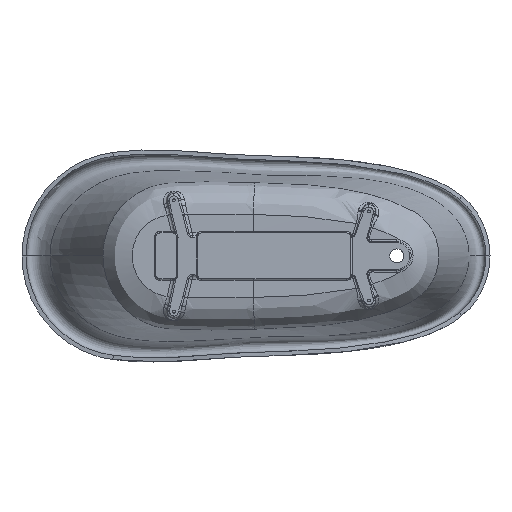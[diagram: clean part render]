
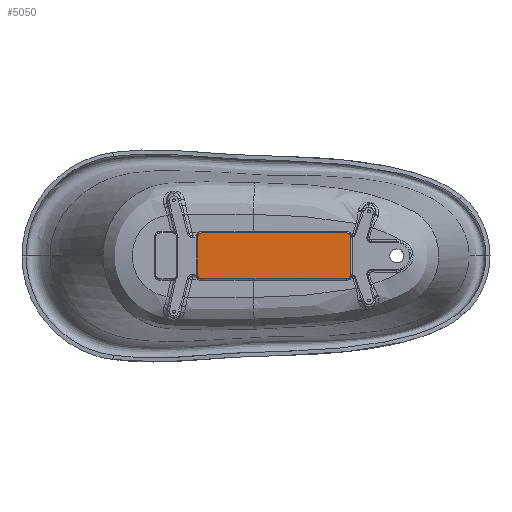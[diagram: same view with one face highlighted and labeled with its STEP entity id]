
A CAD part, front view. The second image highlights one B-rep face of the part: STEP entity #5050.
In plain terms, the highlighted planar face has unit normal (0, -1, 0).
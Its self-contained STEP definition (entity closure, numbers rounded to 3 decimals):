
#166=PLANE('',#5350);
#781=FACE_OUTER_BOUND('',#982,.T.);
#982=EDGE_LOOP('',(#3564,#3565,#3566,#3567,#3568,#3569,#3570,#3571,#3572,
#3573,#3574,#3575));
#1118=LINE('',#6656,#1187);
#1130=LINE('',#8176,#1199);
#1140=LINE('',#8889,#1209);
#1152=LINE('',#10668,#1221);
#1154=LINE('',#11195,#1223);
#1156=LINE('',#11431,#1225);
#1187=VECTOR('',#5527,520.);
#1199=VECTOR('',#5661,1.441);
#1209=VECTOR('',#5749,1.441);
#1221=VECTOR('',#5839,135.);
#1223=VECTOR('',#5875,132.118);
#1225=VECTOR('',#5887,520.);
#1309=CIRCLE('',#5251,15.);
#1345=CIRCLE('',#5298,15.);
#1346=CIRCLE('',#5300,15.);
#1367=CIRCLE('',#5333,15.);
#1368=CIRCLE('',#5335,15.);
#1378=CIRCLE('',#5351,15.);
#1506=VERTEX_POINT('',#6634);
#1513=VERTEX_POINT('',#6654);
#1514=VERTEX_POINT('',#6655);
#1530=VERTEX_POINT('',#6980);
#1591=VERTEX_POINT('',#8175);
#1592=VERTEX_POINT('',#8181);
#1633=VERTEX_POINT('',#8885);
#1635=VERTEX_POINT('',#8888);
#1644=VERTEX_POINT('',#9060);
#1675=VERTEX_POINT('',#10667);
#1685=VERTEX_POINT('',#10895);
#1686=VERTEX_POINT('',#10899);
#2211=EDGE_CURVE('',#1513,#1514,#1118,.T.);
#2313=EDGE_CURVE('',#1591,#1506,#1130,.T.);
#2316=EDGE_CURVE('',#1592,#1530,#1309,.T.);
#2373=EDGE_CURVE('',#1635,#1633,#1140,.T.);
#2386=EDGE_CURVE('',#1591,#1644,#1345,.T.);
#2391=EDGE_CURVE('',#1513,#1633,#1346,.T.);
#2443=EDGE_CURVE('',#1675,#1592,#1152,.T.);
#2457=EDGE_CURVE('',#1685,#1530,#1367,.T.);
#2460=EDGE_CURVE('',#1686,#1514,#1368,.T.);
#2479=EDGE_CURVE('',#1506,#1635,#1154,.T.);
#2500=EDGE_CURVE('',#1685,#1644,#1156,.T.);
#2504=EDGE_CURVE('',#1675,#1686,#1378,.T.);
#3564=ORIENTED_EDGE('',*,*,#2457,.F.);
#3565=ORIENTED_EDGE('',*,*,#2500,.T.);
#3566=ORIENTED_EDGE('',*,*,#2386,.F.);
#3567=ORIENTED_EDGE('',*,*,#2313,.T.);
#3568=ORIENTED_EDGE('',*,*,#2479,.T.);
#3569=ORIENTED_EDGE('',*,*,#2373,.T.);
#3570=ORIENTED_EDGE('',*,*,#2391,.F.);
#3571=ORIENTED_EDGE('',*,*,#2211,.T.);
#3572=ORIENTED_EDGE('',*,*,#2460,.F.);
#3573=ORIENTED_EDGE('',*,*,#2504,.F.);
#3574=ORIENTED_EDGE('',*,*,#2443,.T.);
#3575=ORIENTED_EDGE('',*,*,#2316,.T.);
#5050=ADVANCED_FACE('',(#781),#166,.F.);
#5251=AXIS2_PLACEMENT_3D('',#8182,#5669,#5670);
#5298=AXIS2_PLACEMENT_3D('',#9062,#5774,#5775);
#5300=AXIS2_PLACEMENT_3D('',#9139,#5779,#5780);
#5333=AXIS2_PLACEMENT_3D('',#10896,#5854,#5855);
#5335=AXIS2_PLACEMENT_3D('',#10918,#5859,#5860);
#5350=AXIS2_PLACEMENT_3D('',#11670,#5893,#5894);
#5351=AXIS2_PLACEMENT_3D('',#11671,#5895,#5896);
#5527=DIRECTION('',(1.,0.,0.));
#5661=DIRECTION('',(0.,0.,-1.));
#5669=DIRECTION('center_axis',(0.,-1.,0.));
#5670=DIRECTION('ref_axis',(1.,0.,0.));
#5749=DIRECTION('',(0.,0.,-1.));
#5774=DIRECTION('center_axis',(0.,1.,0.));
#5775=DIRECTION('ref_axis',(-1.,0.,0.));
#5779=DIRECTION('center_axis',(0.,1.,0.));
#5780=DIRECTION('ref_axis',(0.,0.,-1.));
#5839=DIRECTION('',(0.,0.,1.));
#5854=DIRECTION('center_axis',(0.,1.,0.));
#5855=DIRECTION('ref_axis',(0.,0.,
1.));
#5859=DIRECTION('center_axis',(0.,1.,0.));
#5860=DIRECTION('ref_axis',(0.999,0.,-0.04));
#5875=DIRECTION('',(0.,0.,-1.));
#5887=DIRECTION('',(-1.,0.,0.));
#5893=DIRECTION('center_axis',(0.,1.,0.));
#5894=DIRECTION('ref_axis',(0.,0.,1.));
#5895=DIRECTION('center_axis',(0.,1.,0.));
#5896=DIRECTION('ref_axis',(1.,0.,0.));
#6634=CARTESIAN_POINT('',(-715.,0.,66.059));
#6654=CARTESIAN_POINT('',(-700.,0.,-82.5));
#6655=CARTESIAN_POINT('',(-180.,0.,-82.5));
#6656=CARTESIAN_POINT('',(-700.,0.,-82.5));
#6980=CARTESIAN_POINT('',(-165.012,0.,68.093));
#8175=CARTESIAN_POINT('',(-715.,0.,67.5));
#8176=CARTESIAN_POINT('',(-715.,0.,67.5));
#8181=CARTESIAN_POINT('',(-165.,0.,67.5));
#8182=CARTESIAN_POINT('Origin',(-180.,0.,67.5));
#8885=CARTESIAN_POINT('',(-715.,0.,-67.5));
#8888=CARTESIAN_POINT('',(-715.,0.,-66.059));
#8889=CARTESIAN_POINT('',(-715.,0.,-66.059));
#9060=CARTESIAN_POINT('',(-700.,0.,82.5));
#9062=CARTESIAN_POINT('Origin',(-700.,0.,67.5));
#9139=CARTESIAN_POINT('Origin',(-700.,0.,-67.5));
#10667=CARTESIAN_POINT('',(-165.,0.,-67.5));
#10668=CARTESIAN_POINT('',(-165.,0.,-67.5));
#10895=CARTESIAN_POINT('',(-180.,0.,82.5));
#10896=CARTESIAN_POINT('Origin',(-180.,0.,67.5));
#10899=CARTESIAN_POINT('',(-165.012,0.,-68.093));
#10918=CARTESIAN_POINT('Origin',(-180.,0.,-67.5));
#11195=CARTESIAN_POINT('',(-715.,0.,66.059));
#11431=CARTESIAN_POINT('',(-180.,0.,82.5));
#11670=CARTESIAN_POINT('Origin',(-715.,0.,0.));
#11671=CARTESIAN_POINT('Origin',(-180.,0.,-67.5));
